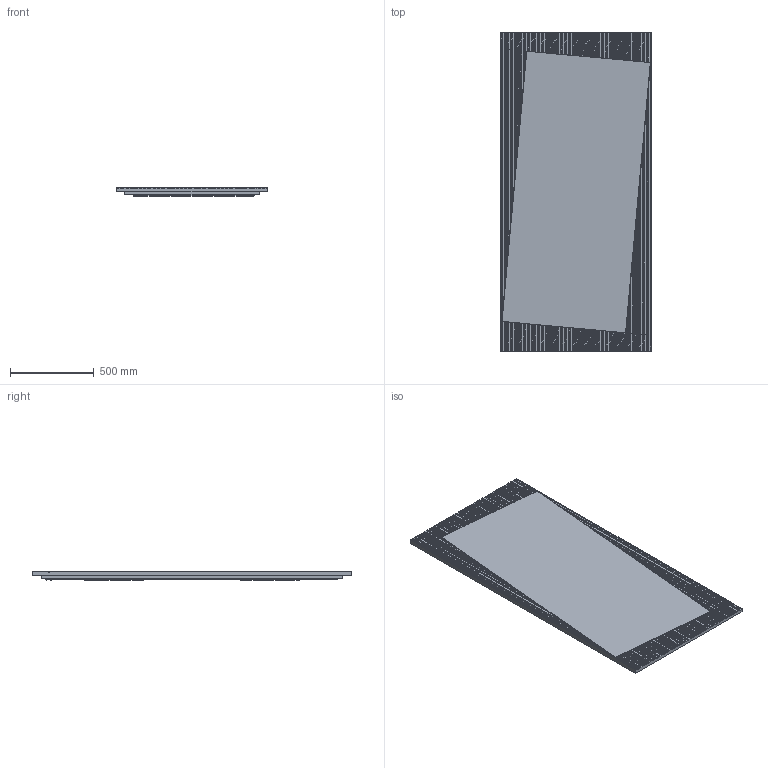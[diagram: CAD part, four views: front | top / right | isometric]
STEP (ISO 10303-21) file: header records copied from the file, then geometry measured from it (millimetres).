
FILE_DESCRIPTION (( 'STEP AP214' ), '1' );
FILE_NAME ('MUSA 90x190.STEP', '2024-02-09T08:57:36', ( '' ), ( '' ), 'SwSTEP 2.0', 'SolidWorks 2023', '' );
FILE_SCHEMA (( 'AUTOMOTIVE_DESIGN' ));
Length unit declared in the file: millimetre
Products named in the file (5): Vite autofilettante 4,5x25; Barra appendipensili SINGOLA NEW; Barra appendipensili; MUSA 90x190
Assembly tree (7 placements, depth 2):
  MUSA 90x190
    MUSA 90x190
    Barra appendipensili
    Vite autofilettante 4,5x25  x3
    Barra appendipensili SINGOLA NEW  x2
Bounding box: 900 x 1900 x 53 mm (x, y, z)
Volume: 46129397.4 mm3; surface area: 7006067.7 mm2
Topology: 14 solids, 14 shells, 1586 faces, 4120 edges, 2565 vertices
Faces by surface type: plane 1003, cylinder 559, cone 12, torus 6, sphere 6
Entity records: 41631 total; most frequent: CARTESIAN_POINT 8137, ORIENTED_EDGE 7208, DIRECTION 6614, EDGE_CURVE 3604, LINE 2750, VECTOR 2750, VERTEX_POINT 2271, AXIS2_PLACEMENT_3D 1932
